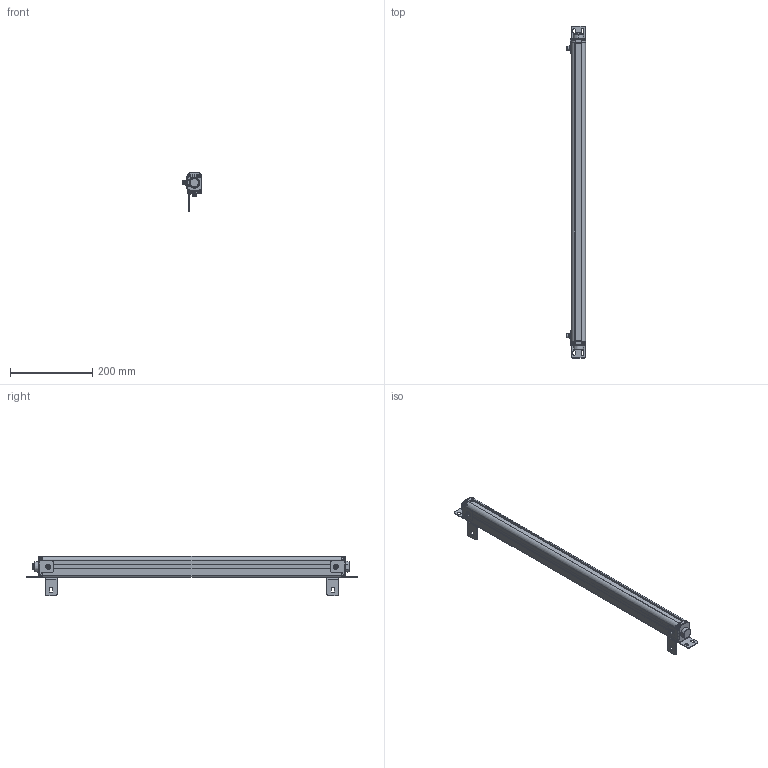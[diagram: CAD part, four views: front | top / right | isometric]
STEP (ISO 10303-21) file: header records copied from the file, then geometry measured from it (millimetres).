
FILE_DESCRIPTION((''),'2;1');
FILE_NAME('ESN--000_ASM','2021-08-11T16:09:27',('18720616900'),(''),'CREO PARAMETRIC BY PTC INC, 2019010','CREO PARAMETRIC BY PTC INC, 2019010','');
FILE_SCHEMA(('CONFIG_CONTROL_DESIGN'));
Products named in the file (22): 00; 000; _0002; _0003; _0004; 5000; 5--0001; ESN_50001_ASM; ST-3-120001; L10001; M6-8--0001; M6-1--00; M6-1-00; M6-80001_ASM; L1--0001_ASM; H1--000; H1--0003_ASM; H1--0001_ASM; ESN--000_ASM
Assembly tree (35 placements, depth 4):
  ESN--000_ASM
    00
    000
    _0002
    _0003
    _0004
    000
    ESN_50001_ASM
      5000
      5--0001  x5
    ST-3-120001  x8
    L1--0001_ASM  x2
      L10001
      M6-80001_ASM
        M6-8--0001
        M6-1--00
        M6-1-00
        00
    H1--0003_ASM
      H1--000
      M6-80001_ASM
        M6-8--0001
        M6-1--00
        M6-1-00
        00
    H1--0001_ASM
      H1--000
      M6-80001_ASM
        M6-8--0001
        M6-1--00
        M6-1-00
        00
Bounding box: 46.5 x 807 x 94.95 mm (x, y, z)
Volume: 1130938.4 mm3; surface area: 252365 mm2
Topology: 40 solids, 40 shells, 1785 faces, 4708 edges, 3012 vertices
Faces by surface type: plane 583, cylinder 416, bspline 362, cone 291, torus 107, sphere 26
Entity records: 48222 total; most frequent: CARTESIAN_POINT 24957, ORIENTED_EDGE 5136, DIRECTION 4189, EDGE_CURVE 2568, VERTEX_POINT 1669, AXIS2_PLACEMENT_3D 1488, VECTOR 1213, LINE 1213
